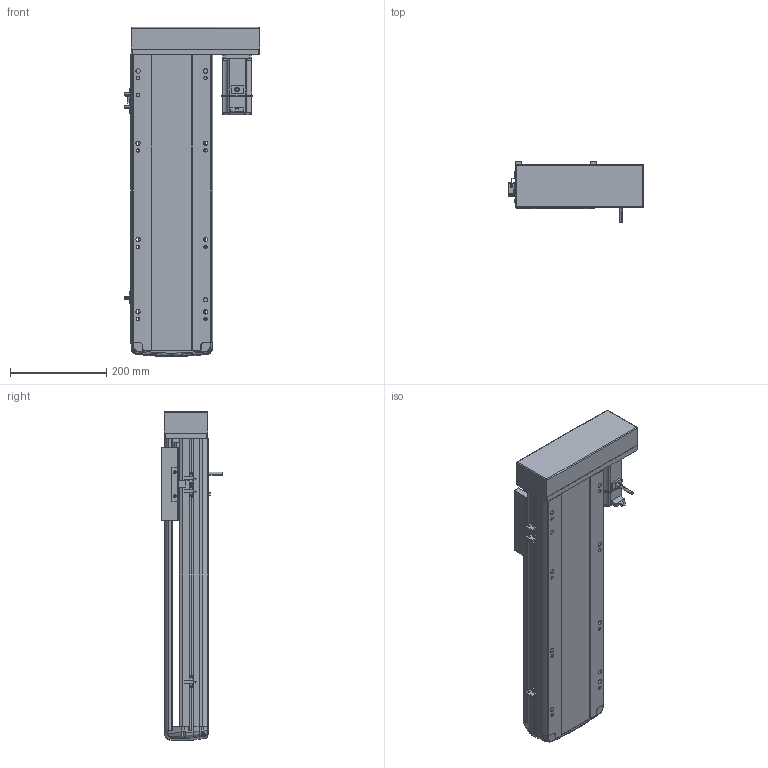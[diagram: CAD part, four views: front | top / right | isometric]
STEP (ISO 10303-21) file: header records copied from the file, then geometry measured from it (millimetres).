
FILE_DESCRIPTION (( 'STEP AP214' ), '1' );
FILE_NAME ('RTH17-XX-400-L-M40-C4.STEP', '2025-10-24T08:45:03', ( '' ), ( '' ), 'SwSTEP 2.0', 'SolidWorks 2018', '' );
FILE_SCHEMA (( 'AUTOMOTIVE_DESIGN' ));
Length unit declared in the file: millimetre
Products named in the file (10): N_RTH17-M-007上盖^RTH17-XX-XX-L-M40-C4（方程式）; N_RTH17-L-008-P40电机安装板左转折^RTH17-XX-XX-L-M40-C4（方程式）; N_RTH17-E-004丝杆螺母连接座^RTH17-XX-XX-L-M40-C4（方程式）; N_RTH-BL-012 感应片(外置)^RTH17-XX-XX-L-M40-C4（方程式）; N_M40^RTH17-XX-XX-L-M40-C4（方程式）; N_OMRON EE-SX672 換覜ん^RTH17-XX-XX-L-M40-C4ㄗ源最宒ㄘ; N_RTH17-M-011底座^RTH17-XX-XX-L-M40-C4（方程式）; N_RTH17-GY-001P^RTH17-XX-XX-L-M40-C4（方程式）; RTH17-XX-400-L-M40-C4; N_RTH17-L-018盖子^RTH17-XX-XX-L-M40-C4（方程式）
Assembly tree (11 placements, depth 2):
  RTH17-XX-400-L-M40-C4
    N_RTH17-M-011底座^RTH17-XX-XX-L-M40-C4（方程式）
    N_RTH17-M-007上盖^RTH17-XX-XX-L-M40-C4（方程式）
    N_M40^RTH17-XX-XX-L-M40-C4（方程式）
    N_OMRON EE-SX672 換覜ん^RTH17-XX-XX-L-M40-C4ㄗ源最宒ㄘ  x3
    N_RTH-BL-012 感应片(外置)^RTH17-XX-XX-L-M40-C4（方程式）
    N_RTH17-L-008-P40电机安装板左转折^RTH17-XX-XX-L-M40-C4（方程式）
    N_RTH17-L-018盖子^RTH17-XX-XX-L-M40-C4（方程式）
    N_RTH17-E-004丝杆螺母连接座^RTH17-XX-XX-L-M40-C4（方程式）
    N_RTH17-GY-001P^RTH17-XX-XX-L-M40-C4（方程式）
Bounding box: 281 x 127 x 683.07 mm (x, y, z)
Volume: 6706781.1 mm3; surface area: 870966.2 mm2
Topology: 13 solids, 15 shells, 1631 faces, 4521 edges, 2946 vertices
Faces by surface type: plane 831, cylinder 433, bspline 330, cone 28, torus 9
Entity records: 47114 total; most frequent: CARTESIAN_POINT 19127, ORIENTED_EDGE 6066, DIRECTION 4999, EDGE_CURVE 3037, VERTEX_POINT 1982, VECTOR 1729, LINE 1729, AXIS2_PLACEMENT_3D 1635
